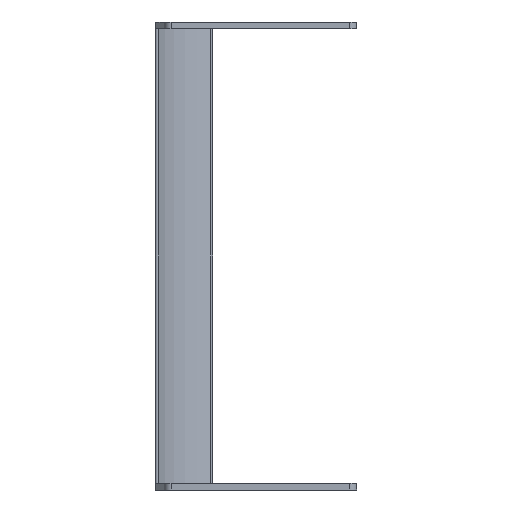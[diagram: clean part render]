
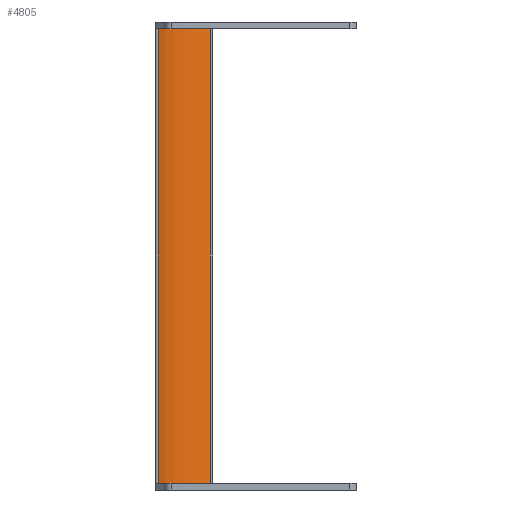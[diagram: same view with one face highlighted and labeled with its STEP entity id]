
A CAD part, left-side view. The second image highlights one B-rep face of the part: STEP entity #4805.
In plain terms, the highlighted cylindrical face has radius 40.64 mm (diameter 81.28 mm), a partial arc.
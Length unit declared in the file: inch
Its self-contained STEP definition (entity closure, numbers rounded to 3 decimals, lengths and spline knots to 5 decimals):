
#4462=CARTESIAN_POINT('',(-1.52,1.63,-4.118));
#4463=DIRECTION('',(0.,0.,1.));
#4464=DIRECTION('',(0.325,-0.946,0.));
#4465=AXIS2_PLACEMENT_3D('',#4462,#4463,#4464);
#4514=DIRECTION('',(0.,0.,1.));
#4515=VECTOR('',#4514,8.236);
#4516=CARTESIAN_POINT('',(-0.05742,0.98126,-4.118));
#4517=LINE('',#4516,#4515);
#4550=CARTESIAN_POINT('',(-1.52,1.63,4.118));
#4551=DIRECTION('',(0.,0.,-1.));
#4552=DIRECTION('',(0.914,-0.405,0.));
#4553=AXIS2_PLACEMENT_3D('',#4550,#4551,#4552);
#4583=DIRECTION('',(0.,0.,1.));
#4584=VECTOR('',#4583,8.236);
#4585=CARTESIAN_POINT('',(-1.00032,0.11675,-4.118));
#4586=LINE('',#4585,#4584);
#4619=CARTESIAN_POINT('',(-1.00032,0.11675,-4.118));
#4620=VERTEX_POINT('',#4619);
#4627=CARTESIAN_POINT('',(-0.05742,0.98126,-4.118));
#4628=VERTEX_POINT('',#4627);
#4639=CARTESIAN_POINT('',(-0.05742,0.98126,4.118));
#4640=CARTESIAN_POINT('',(-1.00032,0.11675,4.118));
#4641=VERTEX_POINT('',#4639);
#4642=VERTEX_POINT('',#4640);
#4794=CARTESIAN_POINT('',(-1.52,1.63,4.118));
#4795=DIRECTION('',(0.,0.,-1.));
#4796=DIRECTION('',(-1.,0.,0.));
#4797=AXIS2_PLACEMENT_3D('',#4794,#4795,#4796);
#4798=CYLINDRICAL_SURFACE('',#4797,1.6);
#4799=ORIENTED_EDGE('',*,*,#4670,.T.);
#4800=ORIENTED_EDGE('',*,*,#4706,.T.);
#4801=ORIENTED_EDGE('',*,*,#4751,.T.);
#4802=ORIENTED_EDGE('',*,*,#4788,.F.);
#4803=EDGE_LOOP('',(#4799,#4800,#4801,#4802));
#4804=FACE_OUTER_BOUND('',#4803,.F.);
#4466=CIRCLE('',#4465,1.6);
#4554=CIRCLE('',#4553,1.6);
#4670=EDGE_CURVE('',#4620,#4628,#4466,.T.);
#4706=EDGE_CURVE('',#4628,#4641,#4517,.T.);
#4751=EDGE_CURVE('',#4641,#4642,#4554,.T.);
#4788=EDGE_CURVE('',#4620,#4642,#4586,.T.);
#4805=ADVANCED_FACE('',(#4804),#4798,.F.);
